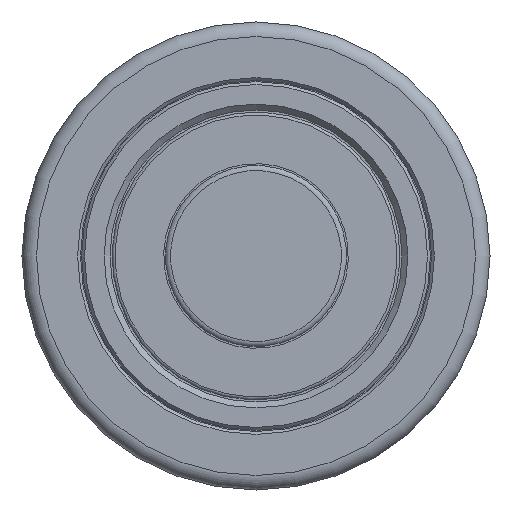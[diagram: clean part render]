
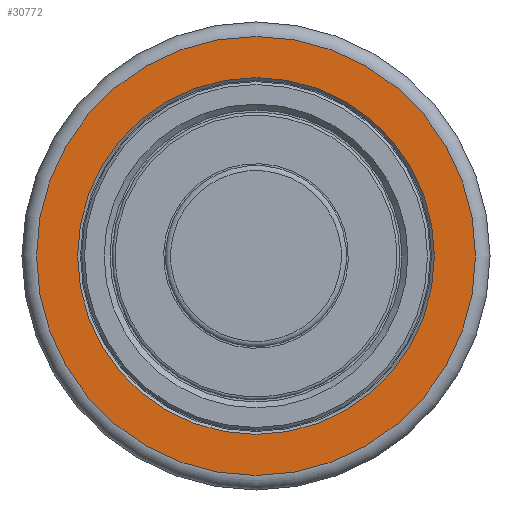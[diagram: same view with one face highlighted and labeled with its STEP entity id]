
A CAD part, front view. The second image highlights one B-rep face of the part: STEP entity #30772.
In plain terms, the highlighted planar face has unit normal (0, -1, 0).
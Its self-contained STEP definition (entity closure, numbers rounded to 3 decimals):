
#262=PLANE('',#32263);
#551=FACE_BOUND('',#8022,.T.);
#772=CIRCLE('',#32259,15.1);
#776=CIRCLE('',#32264,12.275);
#6360=FACE_OUTER_BOUND('',#8021,.T.);
#8021=EDGE_LOOP('',(#22171));
#8022=EDGE_LOOP('',(#22172));
#12437=VERTEX_POINT('',#47840);
#12440=VERTEX_POINT('',#47848);
#16031=EDGE_CURVE('',#12437,#12437,#772,.T.);
#16035=EDGE_CURVE('',#12440,#12440,#776,.T.);
#22171=ORIENTED_EDGE('',*,*,#16031,.F.);
#22172=ORIENTED_EDGE('',*,*,#16035,.F.);
#30772=ADVANCED_FACE('',(#6360,#551),#262,.T.);
#32259=AXIS2_PLACEMENT_3D('',#47841,#34351,#34352);
#32263=AXIS2_PLACEMENT_3D('',#47847,#34359,#34360);
#32264=AXIS2_PLACEMENT_3D('',#47849,#34361,#34362);
#34351=DIRECTION('center_axis',(0.,1.,0.));
#34352=DIRECTION('ref_axis',(0.,0.,-1.));
#34359=DIRECTION('center_axis',(0.,-1.,0.));
#34360=DIRECTION('ref_axis',(-1.,0.,0.));
#34361=DIRECTION('center_axis',(0.,-1.,0.));
#34362=DIRECTION('ref_axis',(0.,0.,-1.));
#47840=CARTESIAN_POINT('',(15.1,-24.692,0.));
#47841=CARTESIAN_POINT('Origin',(0.,-24.692,
0.));
#47847=CARTESIAN_POINT('Origin',(0.,-24.692,
12.075));
#47848=CARTESIAN_POINT('',(0.,-24.692,12.275));
#47849=CARTESIAN_POINT('Origin',(0.,-24.692,
0.));
